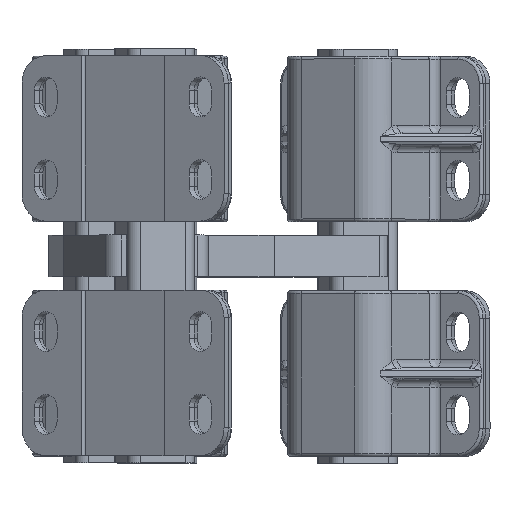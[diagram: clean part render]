
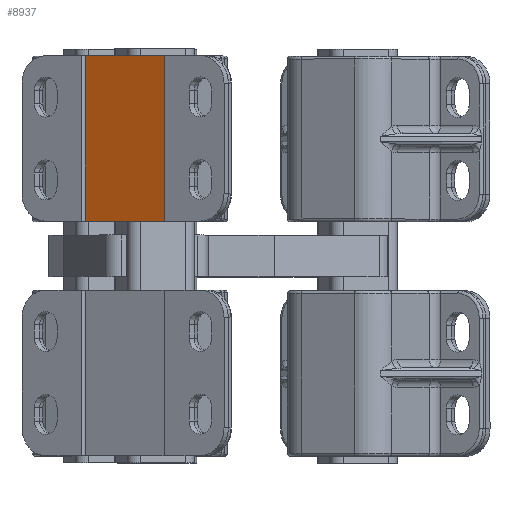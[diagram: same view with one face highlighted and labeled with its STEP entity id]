
A CAD part, top view. The second image highlights one B-rep face of the part: STEP entity #8937.
In plain terms, the highlighted planar face has unit normal (-0.507, 0, 0.862) as drawn and (0, 0, -1) by its records, which use the part's own axes.
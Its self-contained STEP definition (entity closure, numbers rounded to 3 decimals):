
#5362=CARTESIAN_POINT('',(-33.,0.0,-42.5));
#5363=VERTEX_POINT('',#5362);
#5371=CARTESIAN_POINT('',(33.0,0.0,-42.5));
#5372=VERTEX_POINT('',#5371);
#5373=CARTESIAN_POINT('',(-33.,0.0,-42.5));
#5374=DIRECTION('',(1.0,0.0,0.0));
#5375=VECTOR('',#5374,66.);
#5376=LINE('',#5373,#5375);
#5377=EDGE_CURVE('',#5363,#5372,#5376,.T.);
#8671=CARTESIAN_POINT('',(33.0,120.0,-42.5));
#8672=VERTEX_POINT('',#8671);
#8680=CARTESIAN_POINT('',(-33.,120.0,-42.5));
#8681=VERTEX_POINT('',#8680);
#8682=CARTESIAN_POINT('',(-33.,120.0,-42.5));
#8683=DIRECTION('',(1.0,0.0,0.0));
#8684=VECTOR('',#8683,66.);
#8685=LINE('',#8682,#8684);
#8686=EDGE_CURVE('',#8681,#8672,#8685,.T.);
#8910=CARTESIAN_POINT('',(-33.,0.0,-42.5));
#8911=DIRECTION('',(0.0,1.0,0.0));
#8912=VECTOR('',#8911,120.0);
#8913=LINE('',#8910,#8912);
#8914=EDGE_CURVE('',#5363,#8681,#8913,.T.);
#8921=CARTESIAN_POINT('',(0.,0.0,-42.5));
#8922=DIRECTION('',(0.0,0.0,-1.0));
#8923=DIRECTION('',(-1.0,0.0,0.0));
#8924=AXIS2_PLACEMENT_3D('',#8921,#8922,#8923);
#8925=PLANE('',#8924);
#8926=ORIENTED_EDGE('',*,*,#8686,.T.);
#8927=CARTESIAN_POINT('',(33.0,0.0,-42.5));
#8928=DIRECTION('',(0.0,1.0,0.0));
#8929=VECTOR('',#8928,120.0);
#8930=LINE('',#8927,#8929);
#8931=EDGE_CURVE('',#5372,#8672,#8930,.T.);
#8932=ORIENTED_EDGE('',*,*,#8931,.F.);
#8933=ORIENTED_EDGE('',*,*,#5377,.F.);
#8934=ORIENTED_EDGE('',*,*,#8914,.T.);
#8935=EDGE_LOOP('',(#8926,#8932,#8933,#8934));
#8936=FACE_OUTER_BOUND('',#8935,.T.);
#8937=ADVANCED_FACE('',(#8936),#8925,.T.);
